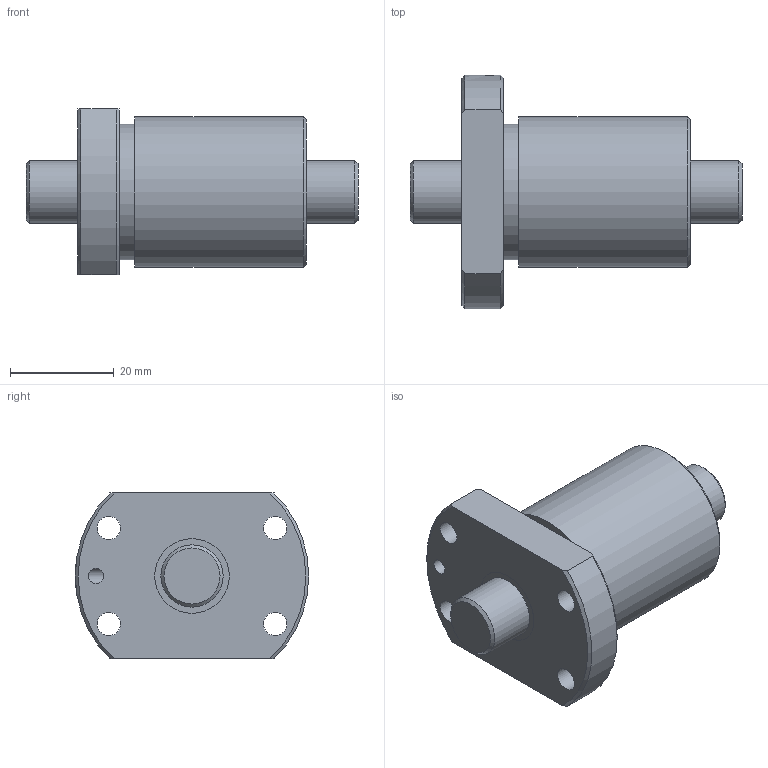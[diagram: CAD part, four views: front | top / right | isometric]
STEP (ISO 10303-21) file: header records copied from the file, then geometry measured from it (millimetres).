
FILE_DESCRIPTION(/* description */ ('STEP AP203'),/* implementation_level */ '2;1');
FILE_NAME(/* name */ 'BTK1208V-2.6ZZ+64LC7T_000',/* time_stamp */ '2025-01-16T07:55:37+01:00',/* author */ ('License CC BY-ND 4.0'),/* organization */ ('CADENAS'),/* preprocessor_version */ 'ST-DEVELOPER v19.3',/* originating_system */ 'PARTsolutions',/* authorisation */ ' ');
FILE_SCHEMA (('CONFIG_CONTROL_DESIGN'));
Length unit declared in the file: millimetre
Products named in the file (3): BTK1208V-2.6ZZ+64LC7T_000; BTK 1208V-2.600 Shaft; BTK 1208V-2.6ZZ Nut
Assembly tree (2 placements, depth 2):
  BTK1208V-2.6ZZ+64LC7T_000
    BTK 1208V-2.600 Shaft
    BTK 1208V-2.6ZZ Nut
Bounding box: 64 x 45 x 32 mm (x, y, z)
Volume: 35427.8 mm3; surface area: 11643.3 mm2
Topology: 2 solids, 2 shells, 35 faces, 74 edges, 48 vertices
Faces by surface type: cylinder 16, plane 12, cone 7
Full cylindrical faces by diameter (mm): 3 x3, 4.5 x4, 12 x2, 14.4 x2, 26.1 x1, 29 x1
Entity records: 963 total; most frequent: CARTESIAN_POINT 182, DIRECTION 156, ORIENTED_EDGE 110, AXIS2_PLACEMENT_3D 74, EDGE_LOOP 67, FACE_BOUND 67, EDGE_CURVE 55, VERTEX_POINT 46
